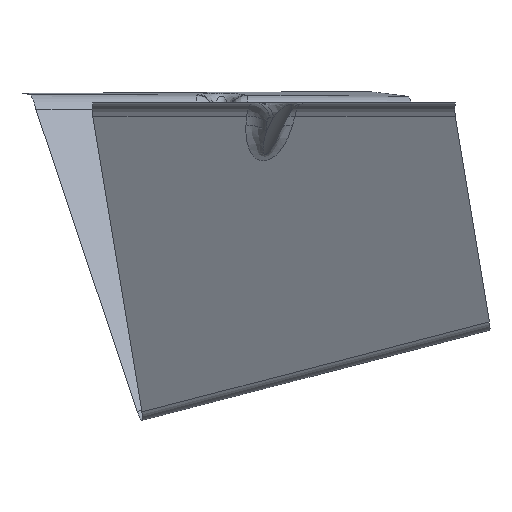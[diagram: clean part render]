
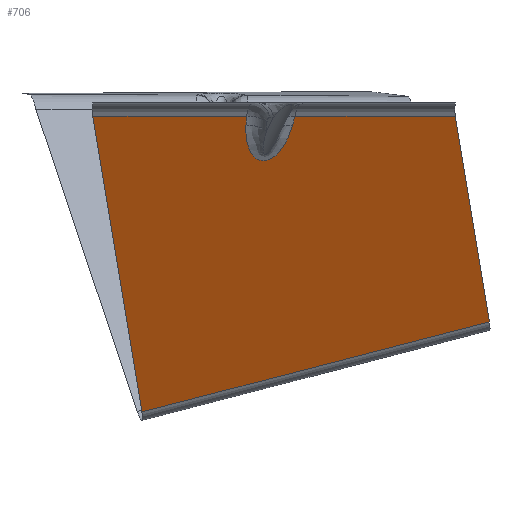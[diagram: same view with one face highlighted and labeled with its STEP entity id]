
A CAD part, left-side view. The second image highlights one B-rep face of the part: STEP entity #706.
In plain terms, the highlighted planar face has unit normal (-0.83, -0.249, -0.5).
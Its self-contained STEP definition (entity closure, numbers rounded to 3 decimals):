
#251=CARTESIAN_POINT('Vertex',(-91.579,7.681,-1.1)) ;
#274=CARTESIAN_POINT('Line Origine',(-72.9,9.876,-33.182)) ;
#278=CARTESIAN_POINT('Vertex',(-90.135,7.851,-3.581)) ;
#591=CARTESIAN_POINT('Control Point',(-86.286,-4.977,-3.581)) ;
#592=CARTESIAN_POINT('Control Point',(-86.073,-4.87,-3.989)) ;
#593=CARTESIAN_POINT('Control Point',(-85.862,-4.752,-4.397)) ;
#594=CARTESIAN_POINT('Control Point',(-85.655,-4.624,-4.805)) ;
#595=CARTESIAN_POINT('Control Point',(-85.071,-4.226,-5.971)) ;
#596=CARTESIAN_POINT('Control Point',(-84.521,-3.735,-7.128)) ;
#597=CARTESIAN_POINT('Control Point',(-84.181,-3.373,-7.873)) ;
#598=CARTESIAN_POINT('Control Point',(-83.724,-2.791,-8.921)) ;
#599=CARTESIAN_POINT('Control Point',(-83.324,-2.082,-9.937)) ;
#600=CARTESIAN_POINT('Control Point',(-83.211,-1.862,-10.233)) ;
#601=CARTESIAN_POINT('Control Point',(-83.018,-1.433,-10.767)) ;
#602=CARTESIAN_POINT('Control Point',(-82.852,-0.953,-11.282)) ;
#603=CARTESIAN_POINT('Control Point',(-82.783,-0.723,-11.511)) ;
#604=CARTESIAN_POINT('Control Point',(-82.673,-0.286,-11.91)) ;
#605=CARTESIAN_POINT('Control Point',(-82.596,0.2,-12.281)) ;
#606=CARTESIAN_POINT('Control Point',(-82.569,0.426,-12.438)) ;
#607=CARTESIAN_POINT('Control Point',(-82.53,0.943,-12.76)) ;
#608=CARTESIAN_POINT('Control Point',(-82.544,1.52,-13.024)) ;
#609=CARTESIAN_POINT('Control Point',(-82.57,1.852,-13.145)) ;
#610=CARTESIAN_POINT('Control Point',(-82.655,2.426,-13.289)) ;
#611=CARTESIAN_POINT('Control Point',(-82.81,3.011,-13.325)) ;
#612=CARTESIAN_POINT('Control Point',(-82.882,3.241,-13.32)) ;
#613=CARTESIAN_POINT('Control Point',(-83.101,3.846,-13.257)) ;
#614=CARTESIAN_POINT('Control Point',(-83.373,4.389,-13.075)) ;
#615=CARTESIAN_POINT('Control Point',(-83.558,4.698,-12.923)) ;
#616=CARTESIAN_POINT('Control Point',(-83.884,5.177,-12.62)) ;
#617=CARTESIAN_POINT('Control Point',(-84.217,5.576,-12.266)) ;
#618=CARTESIAN_POINT('Control Point',(-84.359,5.732,-12.108)) ;
#619=CARTESIAN_POINT('Control Point',(-84.681,6.062,-11.738)) ;
#620=CARTESIAN_POINT('Control Point',(-85.001,6.34,-11.345)) ;
#621=CARTESIAN_POINT('Control Point',(-85.179,6.482,-11.121)) ;
#622=CARTESIAN_POINT('Control Point',(-85.581,6.776,-10.601)) ;
#623=CARTESIAN_POINT('Control Point',(-85.976,7.015,-10.064)) ;
#624=CARTESIAN_POINT('Control Point',(-86.195,7.133,-9.759)) ;
#625=CARTESIAN_POINT('Control Point',(-86.684,7.371,-9.068)) ;
#626=CARTESIAN_POINT('Control Point',(-87.162,7.548,-8.362)) ;
#627=CARTESIAN_POINT('Control Point',(-87.425,7.63,-7.967)) ;
#628=CARTESIAN_POINT('Control Point',(-88.146,7.818,-6.864)) ;
#629=CARTESIAN_POINT('Control Point',(-88.846,7.901,-5.745)) ;
#630=CARTESIAN_POINT('Control Point',(-89.284,7.918,-5.026)) ;
#631=CARTESIAN_POINT('Control Point',(-89.714,7.901,-4.305)) ;
#632=CARTESIAN_POINT('Control Point',(-90.135,7.851,-3.581)) ;
#633=CARTESIAN_POINT('Vertex',(-86.286,-4.977,-3.581)) ;
#651=CARTESIAN_POINT('Axis2P3D Location',(-40.77,-12.231,-75.484)) ;
#656=CARTESIAN_POINT('Line Origine',(-86.936,-5.304,-2.341)) ;
#660=CARTESIAN_POINT('Vertex',(-87.586,-5.631,-1.1)) ;
#663=CARTESIAN_POINT('Line Origine',(-97.944,28.895,-1.1)) ;
#667=CARTESIAN_POINT('Vertex',(-104.308,50.109,-1.1)) ;
#670=CARTESIAN_POINT('Line Origine',(-77.704,43.346,-41.869)) ;
#674=CARTESIAN_POINT('Vertex',(-51.101,36.582,-82.639)) ;
#677=CARTESIAN_POINT('Line Origine',(-44.22,-11.354,-70.196)) ;
#681=CARTESIAN_POINT('Vertex',(-37.339,-59.289,-57.754)) ;
#684=CARTESIAN_POINT('Line Origine',(-55.823,-54.59,-29.427)) ;
#688=CARTESIAN_POINT('Vertex',(-74.308,-49.891,-1.1)) ;
#691=CARTESIAN_POINT('Line Origine',(-80.947,-27.761,-1.1)) ;
#275=DIRECTION('Vector Direction',(0.502,0.059,-0.863)) ;
#652=DIRECTION('Axis2P3D Direction',(0.83,0.249,0.5)) ;
#653=DIRECTION('Axis2P3D XDirection',(0.541,-0.138,-0.83)) ;
#657=DIRECTION('Vector Direction',(-0.452,-0.227,0.863)) ;
#664=DIRECTION('Vector Direction',(0.287,-0.958,0.)) ;
#671=DIRECTION('Vector Direction',(0.541,-0.138,-0.83)) ;
#678=DIRECTION('Vector Direction',(0.138,-0.959,0.249)) ;
#685=DIRECTION('Vector Direction',(-0.541,0.138,0.83)) ;
#692=DIRECTION('Vector Direction',(0.287,-0.958,0.)) ;
#654=AXIS2_PLACEMENT_3D('Plane Axis2P3D',#651,#652,#653) ;
#697=ORIENTED_EDGE('',*,*,#662,.T.) ;
#698=ORIENTED_EDGE('',*,*,#635,.T.) ;
#699=ORIENTED_EDGE('',*,*,#280,.T.) ;
#700=ORIENTED_EDGE('',*,*,#669,.F.) ;
#701=ORIENTED_EDGE('',*,*,#676,.T.) ;
#702=ORIENTED_EDGE('',*,*,#683,.T.) ;
#703=ORIENTED_EDGE('',*,*,#690,.T.) ;
#704=ORIENTED_EDGE('',*,*,#695,.F.) ;
#276=VECTOR('Line Direction',#275,1.) ;
#658=VECTOR('Line Direction',#657,1.) ;
#665=VECTOR('Line Direction',#664,1.) ;
#672=VECTOR('Line Direction',#671,1.) ;
#679=VECTOR('Line Direction',#678,1.) ;
#686=VECTOR('Line Direction',#685,1.) ;
#693=VECTOR('Line Direction',#692,1.) ;
#706=ADVANCED_FACE('Extract.1',(#705),#655,.F.) ;
#590=B_SPLINE_CURVE_WITH_KNOTS('',5,(#591,#592,#593,#594,#595,#596,#597,#598,#599,#600,#601,#602,#603,#604,#605,#606,#607,#608,#609,#610,#611,#612,#613,#614,#615,#616,#617,#618,#619,#620,#621,#622,#623,#624,#625,#626,#627,#628,#629,#630,#631,#632),.UNSPECIFIED.,.F.,.U.,(6,3,3,3,3,3,3,3,3,3,3,3,3,6),(23.917,27.068,32.95,35.408,37.45,39.073,40.974,42.221,44.339,45.904,47.885,50.4,53.534,59.112),.UNSPECIFIED.) ;
#280=EDGE_CURVE('',#279,#252,#277,.F.) ;
#635=EDGE_CURVE('',#634,#279,#590,.T.) ;
#662=EDGE_CURVE('',#661,#634,#659,.F.) ;
#669=EDGE_CURVE('',#668,#252,#666,.T.) ;
#676=EDGE_CURVE('',#668,#675,#673,.T.) ;
#683=EDGE_CURVE('',#675,#682,#680,.T.) ;
#690=EDGE_CURVE('',#682,#689,#687,.T.) ;
#695=EDGE_CURVE('',#661,#689,#694,.T.) ;
#696=EDGE_LOOP('',(#697,#698,#699,#700,#701,#702,#703,#704)) ;
#705=FACE_OUTER_BOUND('',#696,.T.) ;
#277=LINE('Line',#274,#276) ;
#659=LINE('Line',#656,#658) ;
#666=LINE('Line',#663,#665) ;
#673=LINE('Line',#670,#672) ;
#680=LINE('Line',#677,#679) ;
#687=LINE('Line',#684,#686) ;
#694=LINE('Line',#691,#693) ;
#655=PLANE('',#654) ;
#252=VERTEX_POINT('',#251) ;
#279=VERTEX_POINT('',#278) ;
#634=VERTEX_POINT('',#633) ;
#661=VERTEX_POINT('',#660) ;
#668=VERTEX_POINT('',#667) ;
#675=VERTEX_POINT('',#674) ;
#682=VERTEX_POINT('',#681) ;
#689=VERTEX_POINT('',#688) ;
